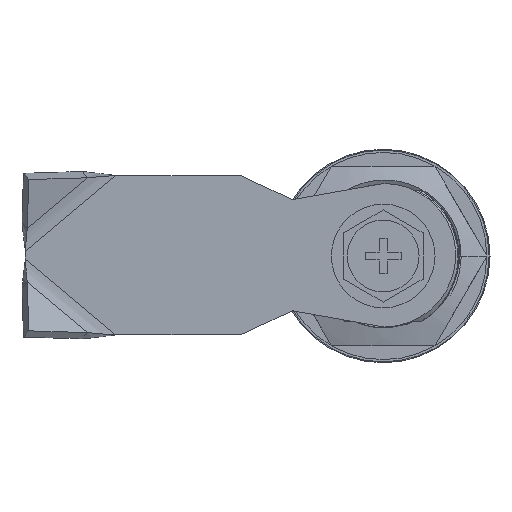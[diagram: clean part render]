
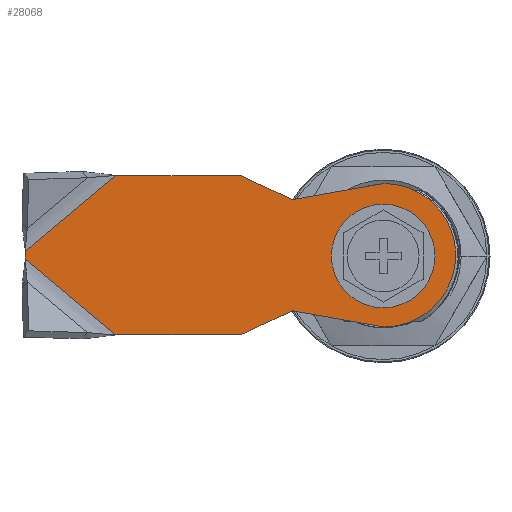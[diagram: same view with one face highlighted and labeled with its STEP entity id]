
A CAD part, front view. The second image highlights one B-rep face of the part: STEP entity #28068.
In plain terms, the highlighted planar face has unit normal (0, -1, 0) as drawn and (0, 0, -1) by its records, which use the part's own axes.
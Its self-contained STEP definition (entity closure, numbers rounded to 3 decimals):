
#27487=DIRECTION('',(0.766,-0.643,0.));
#27488=VECTOR('',#27487,14.779);
#27489=CARTESIAN_POINT('',(-45.,-0.5,-3.));
#27490=LINE('',#27489,#27488);
#27491=DIRECTION('',(1.,0.,0.));
#27492=VECTOR('',#27491,15.678);
#27493=CARTESIAN_POINT('',(-33.678,-10.,-3.));
#27494=LINE('',#27493,#27492);
#27495=DIRECTION('',(0.906,0.423,0.));
#27496=VECTOR('',#27495,7.166);
#27497=CARTESIAN_POINT('',(-18.,-10.,-3.));
#27498=LINE('',#27497,#27496);
#27499=DIRECTION('',(0.985,-0.174,0.));
#27500=VECTOR('',#27499,11.683);
#27501=CARTESIAN_POINT('',(-11.505,-6.971,-3.));
#27502=LINE('',#27501,#27500);
#27503=CARTESIAN_POINT('',(0.,0.,-3.));
#27504=DIRECTION('',(0.,0.,1.));
#27505=DIRECTION('',(0.,-1.,0.));
#27506=AXIS2_PLACEMENT_3D('',#27503,#27504,#27505);
#27508=DIRECTION('',(-0.985,-0.174,0.));
#27509=VECTOR('',#27508,11.683);
#27510=CARTESIAN_POINT('',(0.,9.,-3.));
#27511=LINE('',#27510,#27509);
#27512=DIRECTION('',(-0.906,0.423,0.));
#27513=VECTOR('',#27512,7.166);
#27514=CARTESIAN_POINT('',(-11.505,6.971,-3.));
#27515=LINE('',#27514,#27513);
#27516=DIRECTION('',(-1.,0.,0.));
#27517=VECTOR('',#27516,15.678);
#27518=CARTESIAN_POINT('',(-18.,10.,-3.));
#27519=LINE('',#27518,#27517);
#27520=DIRECTION('',(0.766,0.643,0.));
#27521=VECTOR('',#27520,14.779);
#27522=CARTESIAN_POINT('',(-45.,0.5,-3.));
#27523=LINE('',#27522,#27521);
#27524=DIRECTION('',(0.,-1.,0.));
#27525=VECTOR('',#27524,1.);
#27526=CARTESIAN_POINT('',(-45.,0.5,-3.));
#27527=LINE('',#27526,#27525);
#27528=DIRECTION('',(-1.,0.,0.));
#27529=VECTOR('',#27528,8.);
#27530=CARTESIAN_POINT('',(4.,4.,-3.));
#27531=LINE('',#27530,#27529);
#27532=DIRECTION('',(0.,1.,0.));
#27533=VECTOR('',#27532,8.);
#27534=CARTESIAN_POINT('',(4.,-4.,-3.));
#27535=LINE('',#27534,#27533);
#27536=DIRECTION('',(1.,0.,0.));
#27537=VECTOR('',#27536,8.);
#27538=CARTESIAN_POINT('',(-4.,-4.,-3.));
#27539=LINE('',#27538,#27537);
#27540=DIRECTION('',(0.,-1.,0.));
#27541=VECTOR('',#27540,8.);
#27542=CARTESIAN_POINT('',(-4.,4.,-3.));
#27543=LINE('',#27542,#27541);
#27610=CARTESIAN_POINT('',(0.,9.,-3.));
#27611=CARTESIAN_POINT('',(-11.505,6.971,-3.));
#27612=VERTEX_POINT('',#27610);
#27613=VERTEX_POINT('',#27611);
#27614=CARTESIAN_POINT('',(-18.,10.,-3.));
#27615=VERTEX_POINT('',#27614);
#27616=CARTESIAN_POINT('',(-18.,-10.,-3.));
#27617=CARTESIAN_POINT('',(-11.505,-6.971,-3.));
#27618=VERTEX_POINT('',#27616);
#27619=VERTEX_POINT('',#27617);
#27620=CARTESIAN_POINT('',(0.,-9.,-3.));
#27621=VERTEX_POINT('',#27620);
#27632=CARTESIAN_POINT('',(-33.678,10.,-3.));
#27633=VERTEX_POINT('',#27632);
#27643=CARTESIAN_POINT('',(-45.,0.5,-3.));
#27644=VERTEX_POINT('',#27643);
#27647=CARTESIAN_POINT('',(-33.678,-10.,-3.));
#27648=VERTEX_POINT('',#27647);
#27651=CARTESIAN_POINT('',(-45.,-0.5,-3.));
#27652=VERTEX_POINT('',#27651);
#27669=CARTESIAN_POINT('',(4.,4.,-3.));
#27670=CARTESIAN_POINT('',(-4.,4.,-3.));
#27671=VERTEX_POINT('',#27669);
#27672=VERTEX_POINT('',#27670);
#27673=CARTESIAN_POINT('',(-4.,-4.,-3.));
#27674=VERTEX_POINT('',#27673);
#27675=CARTESIAN_POINT('',(4.,-4.,-3.));
#27676=VERTEX_POINT('',#27675);
#28039=CARTESIAN_POINT('',(0.,0.,-3.));
#28040=DIRECTION('',(0.,0.,1.));
#28041=DIRECTION('',(1.,0.,0.));
#28042=AXIS2_PLACEMENT_3D('',#28039,#28040,#28041);
#28043=PLANE('',#28042);
#28045=ORIENTED_EDGE('',*,*,#28044,.T.);
#28046=ORIENTED_EDGE('',*,*,#27801,.T.);
#28047=ORIENTED_EDGE('',*,*,#27814,.T.);
#28048=ORIENTED_EDGE('',*,*,#27828,.T.);
#28049=ORIENTED_EDGE('',*,*,#27842,.T.);
#28050=ORIENTED_EDGE('',*,*,#27856,.T.);
#28051=ORIENTED_EDGE('',*,*,#27870,.T.);
#28052=ORIENTED_EDGE('',*,*,#27883,.T.);
#28053=ORIENTED_EDGE('',*,*,#28033,.F.);
#28055=ORIENTED_EDGE('',*,*,#28054,.T.);
#28056=EDGE_LOOP('',(#28045,#28046,#28047,#28048,#28049,#28050,#28051,#28052,
#28053,#28055));
#28057=FACE_OUTER_BOUND('',#28056,.F.);
#28059=ORIENTED_EDGE('',*,*,#28058,.F.);
#28061=ORIENTED_EDGE('',*,*,#28060,.F.);
#28063=ORIENTED_EDGE('',*,*,#28062,.F.);
#28065=ORIENTED_EDGE('',*,*,#28064,.F.);
#28066=EDGE_LOOP('',(#28059,#28061,#28063,#28065));
#28067=FACE_BOUND('',#28066,.F.);
#28068=ADVANCED_FACE('',(#28057,#28067),#28043,.F.);
#27507=CIRCLE('',#27506,9.);
#27801=EDGE_CURVE('',#27648,#27618,#27494,.T.);
#27814=EDGE_CURVE('',#27618,#27619,#27498,.T.);
#27828=EDGE_CURVE('',#27619,#27621,#27502,.T.);
#27842=EDGE_CURVE('',#27621,#27612,#27507,.T.);
#27856=EDGE_CURVE('',#27612,#27613,#27511,.T.);
#27870=EDGE_CURVE('',#27613,#27615,#27515,.T.);
#27883=EDGE_CURVE('',#27615,#27633,#27519,.T.);
#28033=EDGE_CURVE('',#27644,#27633,#27523,.T.);
#28044=EDGE_CURVE('',#27652,#27648,#27490,.T.);
#28054=EDGE_CURVE('',#27644,#27652,#27527,.T.);
#28058=EDGE_CURVE('',#27671,#27672,#27531,.T.);
#28060=EDGE_CURVE('',#27676,#27671,#27535,.T.);
#28062=EDGE_CURVE('',#27674,#27676,#27539,.T.);
#28064=EDGE_CURVE('',#27672,#27674,#27543,.T.);
